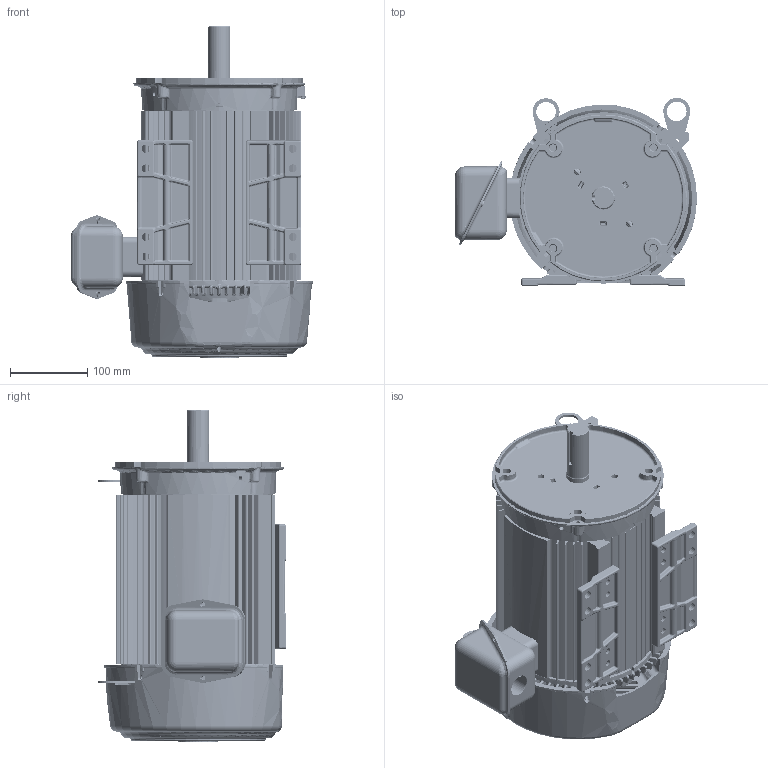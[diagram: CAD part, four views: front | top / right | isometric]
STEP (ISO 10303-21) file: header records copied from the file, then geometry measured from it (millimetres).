
FILE_DESCRIPTION((''),'2;1');
FILE_NAME('STD_CFACE_ASM','2013-03-14T',('emd2341'),('Nidec Motor Corporation'),'PRO/ENGINEER BY PARAMETRIC TECHNOLOGY CORPORATION, 2010140','PRO/ENGINEER BY PARAMETRIC TECHNOLOGY CORPORATION, 2010140','');
FILE_SCHEMA(('CONFIG_CONTROL_DESIGN'));
Length unit declared in the file: inch
Products named in the file (19): 0919844_AF0; 0374476; 0382071-BKT_AF0; 0298010_AF0; 0384147_ASM; 0380766-BKT_AF0; 0361252_AF0; 0380767_ASM; 0361265; 0541983; 0027197; 0919846; 0774783; 0112811; 0362988; 0390920; 0390928; 0390417; STD_CFACE_ASM
Assembly tree (21 placements, depth 3):
  STD_CFACE_ASM
    0919844_AF0
    0374476  x2
    0384147_ASM
      0382071-BKT_AF0
      0298010_AF0
    0380767_ASM
      0380766-BKT_AF0
      0361252_AF0
    0361265
    0541983
    0027197  x2
    0919846
    0774783
    0112811
    0362988  x2
    0390920
    0390928
    0390417
Bounding box: 313.46 x 243.34 x 430.13 mm (x, y, z)
Volume: 2344366.4 mm3; surface area: 1142023.2 mm2
Topology: 23 solids, 23 shells, 6049 faces, 14416 edges, 8383 vertices
Faces by surface type: bspline 2554, cylinder 1362, plane 1060, torus 496, cone 322, sphere 255
Entity records: 302536 total; most frequent: CARTESIAN_POINT 188085, ORIENTED_EDGE 27168, DIRECTION 19717, EDGE_CURVE 13584, AXIS2_PLACEMENT_3D 8374, VERTEX_POINT 7925, EDGE_LOOP 5877, FACE_OUTER_BOUND 5693
